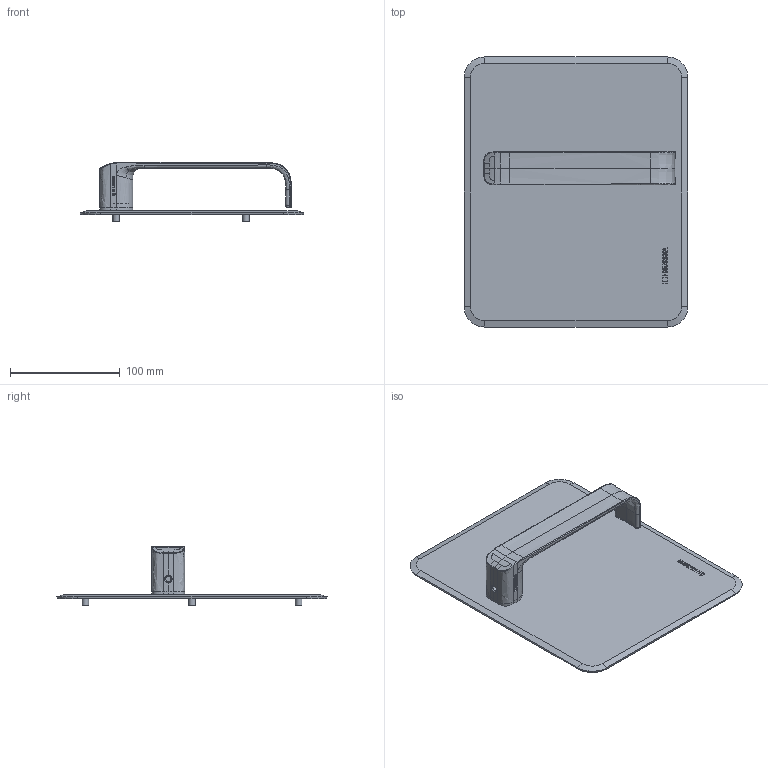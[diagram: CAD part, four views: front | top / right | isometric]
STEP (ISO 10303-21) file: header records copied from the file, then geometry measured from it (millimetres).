
FILE_DESCRIPTION(/* description */ (''),/* implementation_level */ '2;1');
FILE_NAME(/* name */ 'C:\ADSK_DMS_WS\Designs\Vorschläge\Loc Schalen\Muschel Serie 1\S1.0.D4\Heusser-Muschel S1.0.D4.0R.stp',/* time_stamp */ '2020-10-10T07:58:46+02:00',/* author */ ('gm'),/* organization */ (''),/* preprocessor_version */ 'ST-DEVELOPER v16.5',/* originating_system */ 'Autodesk Inventor 2017',/* authorisation */ '');
FILE_SCHEMA (('AUTOMOTIVE_DESIGN { 1 0 10303 214 3 1 1 }'));
Length unit declared in the file: millimetre
Products named in the file (1): S1.0.D1.0R
Bounding box: 203.62 x 245.62 x 54.54 mm (x, y, z)
Volume: 152468.7 mm3; surface area: 122917.8 mm2
Topology: 1 solids, 2 shells, 564 faces, 1484 edges, 972 vertices
Faces by surface type: plane 284, bspline 217, cylinder 33, cone 30
Full cylindrical faces by diameter (mm): 1.7 x2, 3.242 x3, 4.917 x1, 6 x3, 8 x3, 14.2 x1, 16 x3, 18 x1, 19 x1, 19.1 x1, 23 x1, 23.2 x1, 24 x1, 25 x1, 26 x1, 28 x1, 28.6 x1
Entity records: 24555 total; most frequent: CARTESIAN_POINT 11517, ORIENTED_EDGE 2858, DIRECTION 1922, EDGE_CURVE 1429, VERTEX_POINT 961, LINE 850, VECTOR 850, EDGE_LOOP 668
